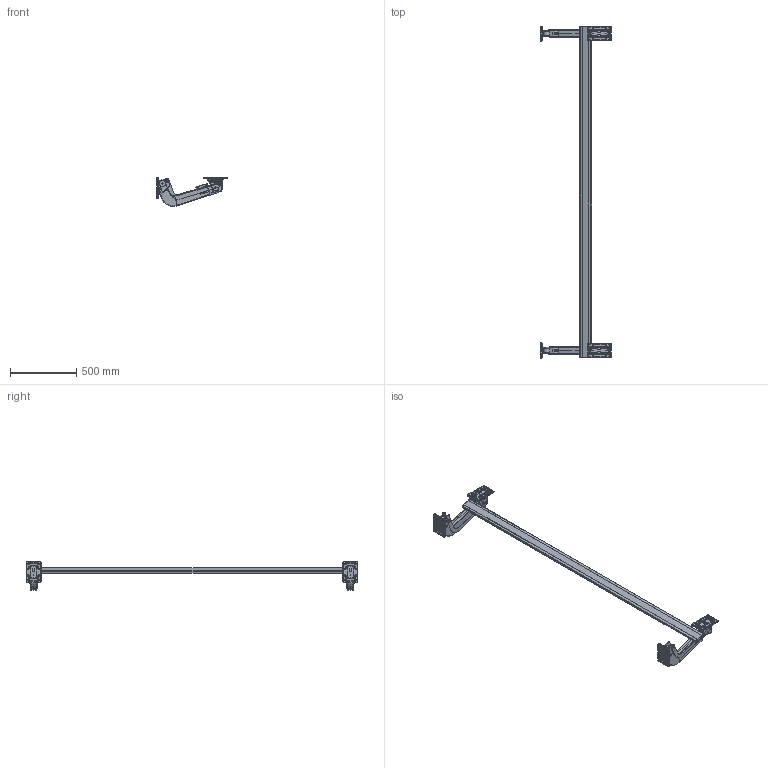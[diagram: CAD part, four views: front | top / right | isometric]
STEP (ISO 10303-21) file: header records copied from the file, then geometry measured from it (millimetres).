
FILE_DESCRIPTION (( 'STEP AP203' ), '1' );
FILE_NAME ('lin-x800h_close.STEP', '2019-01-28T08:30:03', ( '' ), ( '' ), 'SwSTEP 2.0', 'SolidWorks 2016', '' );
FILE_SCHEMA (( 'CONFIG_CONTROL_DESIGN' ));
Length unit declared in the file: millimetre
Products named in the file (19): lin-x800h_close; lin-x800_hinge_plate_b; lin-x800_hinge_plate_a; lin-x800_cover_a; lin-x800_door_plate_b; lin-x800_door_plate_a; lin-x800_hinge_b; lin-x800_arm_a; lin-x800_bar_2500; lin-x800_cap; lin-x800_arm_b; lin-x800_cover_b; lin-x800_hinge_a
Assembly tree (29 placements, depth 4):
  lin-x800h_close
    lin-x800_hinge_a
      lin-x800_hinge_plate_a
        lin-x800_cover_b  x2
        lin-x800_hinge_plate_a
      lin-x800_door_plate_a
        lin-x800_cover_a  x2
        lin-x800_door_plate_a
      lin-x800_arm_a
        lin-x800_arm_a
      lin-x800_arm_b  x2
    lin-x800_hinge_b
      lin-x800_hinge_plate_b
        lin-x800_cover_b  x2
        lin-x800_hinge_plate_b
      lin-x800_door_plate_b
        lin-x800_cover_a  x2
        lin-x800_door_plate_b
      lin-x800_arm_a
        lin-x800_arm_a
      lin-x800_arm_b  x2
    lin-x800_bar_2500
      lin-x800_bar_2500
      lin-x800_cap  x2
Bounding box: 535.01 x 2513.5 x 219.4 mm (x, y, z)
Volume: 7740712.3 mm3; surface area: 1644828.4 mm2
Topology: 21 solids, 21 shells, 6430 faces, 17501 edges, 10876 vertices
Faces by surface type: plane 3286, cylinder 1968, bspline 482, cone 422, torus 192, sphere 80
Entity records: 169110 total; most frequent: CARTESIAN_POINT 40174, ORIENTED_EDGE 27582, DIRECTION 25392, EDGE_CURVE 13791, AXIS2_PLACEMENT_3D 8613, VERTEX_POINT 8573, VECTOR 8166, LINE 8166
